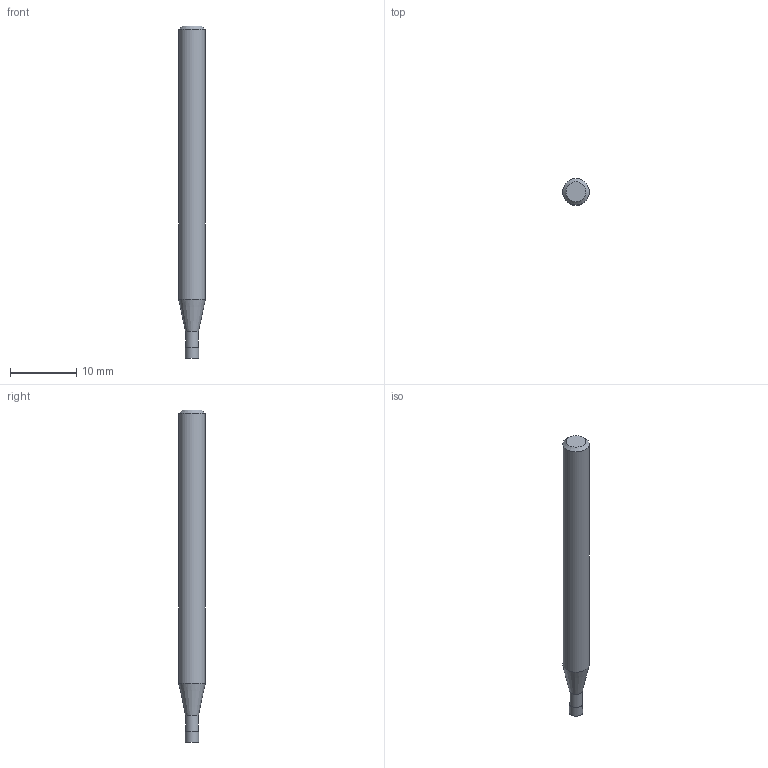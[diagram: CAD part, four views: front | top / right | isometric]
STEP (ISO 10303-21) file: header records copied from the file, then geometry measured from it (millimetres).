
FILE_DESCRIPTION((''),'2;1');
FILE_NAME('C:\Users\nsx150\AppData\Local\Temp\Mastercam 2021\RJ5U8K7RMU\TEMP.step','2021-04-21T16:42:04',(''),(''),'STEP Write','Mastercam 2021 ... CNC Software, Inc.','');
FILE_SCHEMA(('AUTOMOTIVE_DESIGN'));
Length unit declared in the file: millimetre
Products named in the file (1): None
Bounding box: 4 x 4 x 50 mm (x, y, z)
Volume: 562.8 mm3; surface area: 605.9 mm2
Topology: 2 solids, 2 shells, 9 faces, 12 edges, 7 vertices
Faces by surface type: plane 4, cylinder 3, cone 2
Full cylindrical faces by diameter (mm): 1.94 x1, 2 x1, 4 x1
Entity records: 211 total; most frequent: DIRECTION 36, CARTESIAN_POINT 25, AXIS2_PLACEMENT_3D 18, ORIENTED_EDGE 14, EDGE_LOOP 14, STYLED_ITEM 12, ADVANCED_FACE 9, FACE_BOUND 8
